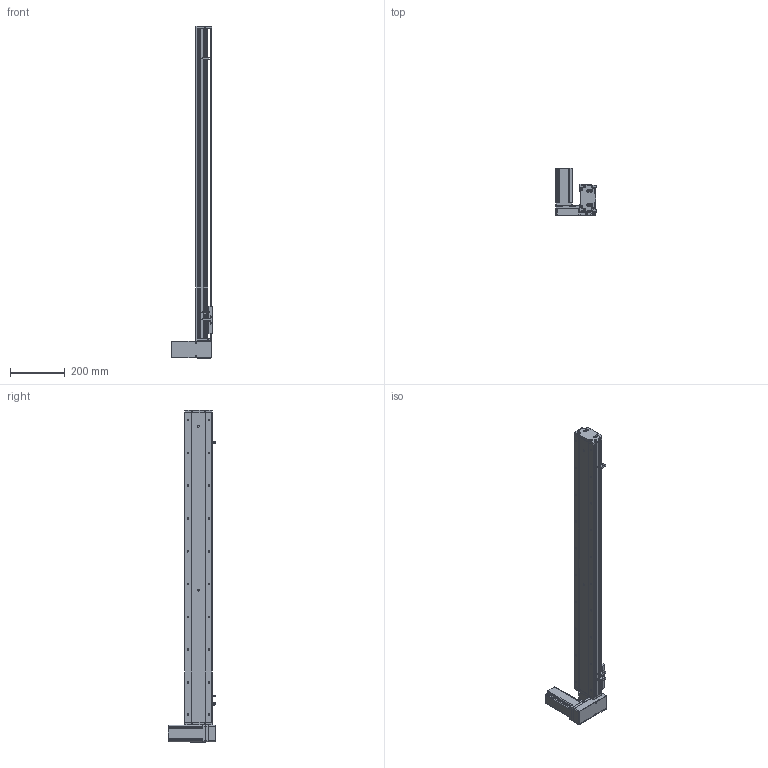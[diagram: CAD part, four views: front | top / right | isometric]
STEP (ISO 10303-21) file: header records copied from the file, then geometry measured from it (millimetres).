
FILE_DESCRIPTION (( 'STEP AP214' ), '1' );
FILE_NAME ('KSD100B-S950-MRD-CM.STEP', '2019-11-11T08:05:15', ( '微软用户' ), ( '微软中国' ), 'SwSTEP 2.0', 'SolidWorks 2014', '' );
FILE_SCHEMA (( 'AUTOMOTIVE_DESIGN' ));
Length unit declared in the file: millimetre
Products named in the file (12): 100宽同步带安装板半封闭; 100宽马达安装板同步带; 100遵傷啣肮祭湍; 100宽底板半封闭同步带950行程; KSD100B-S950-MRD-CM; 悵誘欶奻狟殏; 100宽马达安装板连板上下折丝杆同步带; 台达ECMA－C20604AS伺服电机; U倰嫖萇EEㄜSX672; 覜茼え100遵圉猾敕; 100宽防尘板950行程-同步带; 100宽马达安装板同步带右
Assembly tree (13 placements, depth 2):
  KSD100B-S950-MRD-CM
    100宽底板半封闭同步带950行程
    100遵傷啣肮祭湍
    100宽马达安装板同步带
    100宽同步带安装板半封闭
    100宽马达安装板同步带右
    100宽防尘板950行程-同步带
    覜茼え100遵圉猾敕
    U倰嫖萇EEㄜSX672  x3
    台达ECMA－C20604AS伺服电机
    100宽马达安装板连板上下折丝杆同步带
    悵誘欶奻狟殏
Bounding box: 148 x 174.7 x 1215 mm (x, y, z)
Volume: 2796575.3 mm3; surface area: 925714.4 mm2
Topology: 14 solids, 14 shells, 1461 faces, 4112 edges, 2617 vertices
Faces by surface type: cylinder 735, plane 591, cone 135
Entity records: 51949 total; most frequent: CARTESIAN_POINT 10286, DIRECTION 7128, ORIENTED_EDGE 6860, EDGE_CURVE 3430, AXIS2_PLACEMENT_3D 2605, VERTEX_POINT 2241, LINE 1918, VECTOR 1918
